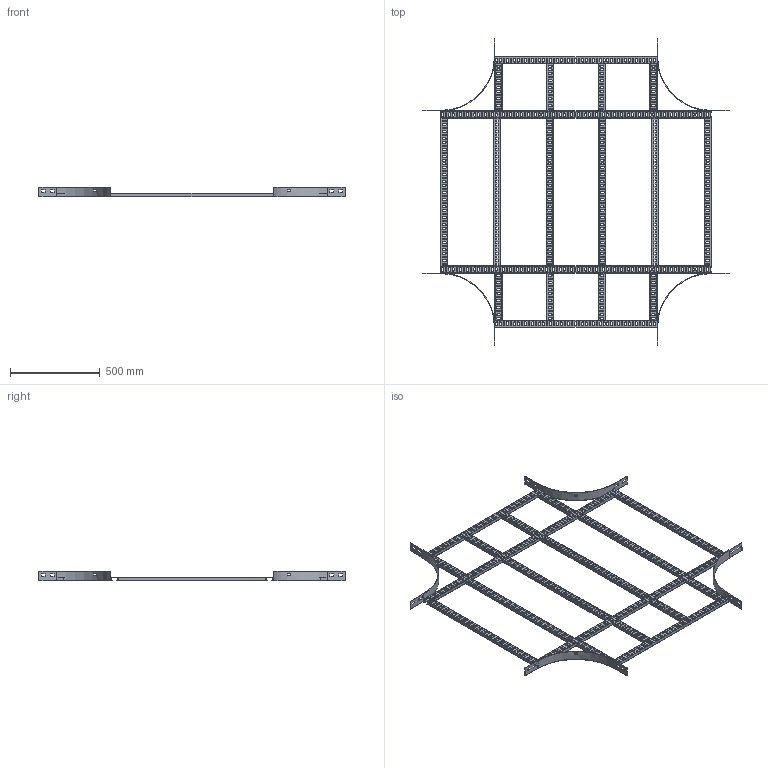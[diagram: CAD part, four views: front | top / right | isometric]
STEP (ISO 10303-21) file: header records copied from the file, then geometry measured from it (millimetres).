
FILE_DESCRIPTION(/* description */ ('','CAx-IF Rec.Pracs.---Representation and Presentation of Product Manufacturing Information (PMI)---4.0---2014-10-13'),/* implementation_level */ '2;1');
FILE_NAME(/* name */ 'Eurostrut_ECO60-900-300_Crossover for Cable Ladder ECL.step',/* time_stamp */ '2026-09-03T13:21:39+02:00',/* author */ (''),/* organization */ (''),/* preprocessor_version */ 'ST-DEVELOPER v20.1',/* originating_system */ 'Autodesk Revit 2027 27.2.0.39',/* authorisation */ '');
FILE_SCHEMA (('AP242_MANAGED_MODEL_BASED_3D_ENGINEERING_MIM_LF { 1 0 10303 442 2 1 4 }'));
Products named in the file (10): TopLevelAssembly; Sweep; Sweep_1; Sweep_2; Sweep_3; Eurostrut_Cable Ladder_Rung_With slots; Eurostrut_Cable Ladder_Rung_With slots_1; Eurostrut_Cable Ladder_Rung Array Straight_Slotted; Eurostrut_Cable Ladder_Rung Array Straight_Slotted_1; Eurostrut_Cable Ladder_Accessory End_54-94-142
Assembly tree (19 placements, depth 2):
  TopLevelAssembly
    Sweep
    Sweep_1
    Eurostrut_Cable Ladder_Rung_With slots  x2
    Eurostrut_Cable Ladder_Rung_With slots_1  x2
    Sweep_2
    Sweep_3
    Eurostrut_Cable Ladder_Rung Array Straight_Slotted
    Eurostrut_Cable Ladder_Rung Array Straight_Slotted_1  x2
    Eurostrut_Cable Ladder_Accessory End_54-94-142  x8
Bounding box: 1711 x 1711 x 54 mm (x, y, z)
Volume: 1878043.7 mm3; surface area: 2336161.2 mm2
Topology: 30 solids, 30 shells, 2844 faces, 8352 edges, 5568 vertices
Faces by surface type: plane 1580, bspline 1184, cylinder 80
Entity records: 90618 total; most frequent: CARTESIAN_POINT 37449, ORIENTED_EDGE 11472, DIRECTION 9814, EDGE_CURVE 5736, LINE 3932, VECTOR 3932, VERTEX_POINT 3824, AXIS2_PLACEMENT_3D 2941
